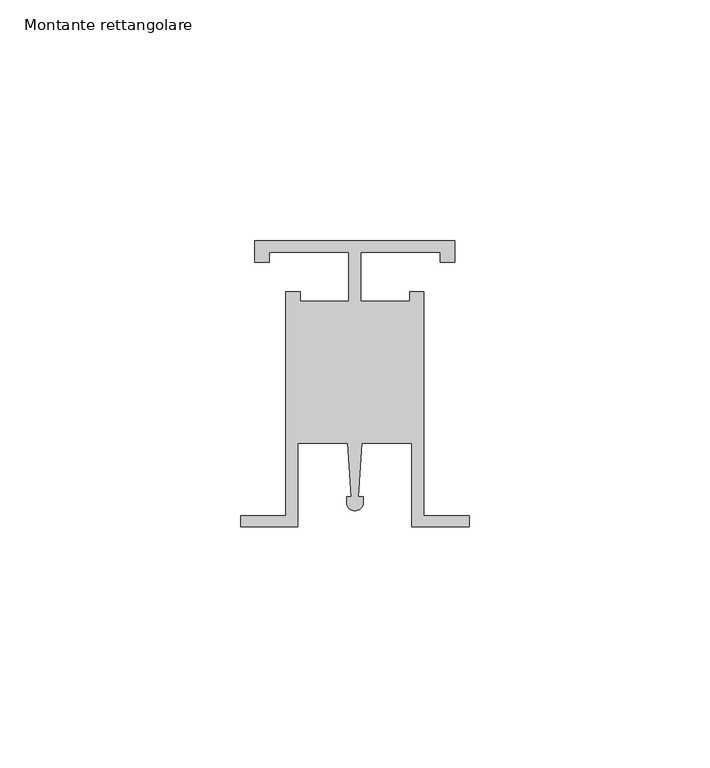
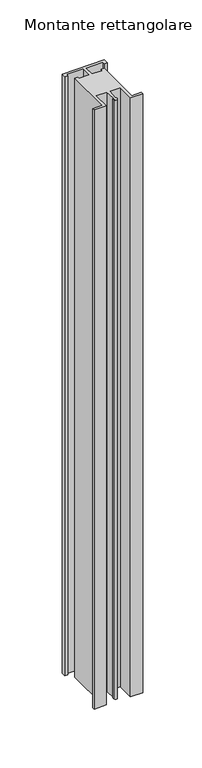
"""IFC4 building model written with IfcOpenShell, lengths in millimetres: member geometry, Montante rettangolare : Verde Profilo's Uprights."""

from ifc_helpers import new_model, si_unit, point, frame, frame_2d, origin, place, context, project, spatial, polyline, circle_curve, trimmed, segment, composite_curve, outline, extrude, source, transform, mapped, element, save


def montante_rettangolare_5246278a(model_context):
    return source(origin(), model_context, "Body", "SweptSolid", [
        extrude(outline(composite_curve([segment(polyline([(-44.5191881, 0.0), (-3.0, 0.0), (-3.0, -4.4643434), (-5.9763281, -4.4643434), (-5.9763281, -2.4801246), (-22.5192241, -2.4801246), (-22.5192241, -12.5992217), (-12.4008018, -12.5992217), (-12.4008018, -10.6150029), (-9.4244736, -10.6150029), (-9.4244736, -57.1992491), (0.0, -57.1992491), (0.0, -59.5229914), (-11.9045983, -59.5229914), (-11.9045983, -42.1200913), (-22.2878429, -42.1200913), (-23.0155567, -53.2310496), (-22.0219337, -53.2310496), (-22.0219337, -54.4070013)]), True, "CONTINUOUS"), segment(trimmed(circle_curve(frame_2d((-23.7595941, -54.4070013)), 1.7376604), [point((-22.0219337, -54.4070013))], [point((-25.4972545, -54.4070013))], False, "CARTESIAN"), True, "CONTINUOUS"), segment(polyline([(-25.4972545, -54.4070013), (-25.4972545, -53.2310496), (-24.5036314, -53.2310496), (-25.2313452, -42.1200913), (-35.6145898, -42.1200913), (-35.6145898, -59.5229914), (-47.5191881, -59.5229914), (-47.5191881, -57.1992491), (-38.0947145, -57.1992491), (-38.0947145, -10.6150029), (-35.1183863, -10.6150029), (-35.1183863, -12.5992217), (-24.999964, -12.5992217), (-24.999964, -2.4801246), (-41.54286, -2.4801246), (-41.54286, -4.4643434), (-44.5191881, -4.4643434), (-44.5191881, 0.0)]), True, "CONTINUOUS")], self_intersect=False)), frame((0.0, 0.0, -620.0), z_axis=(0.0, 0.0, 1.0), x_axis=(1.0, 0.0, 0.0)), (0.0, 0.0, 1.0), 620.0),
    ])


if __name__ == "__main__":
    model = new_model("IFC4")
    model_context = context("Model", 3, world=origin())
    ifc_project = project(units=[si_unit("LENGTHUNIT", "METRE", prefix="MILLI")], contexts=[model_context])
    site = spatial("IfcSite", under=ifc_project)
    building = spatial("IfcBuilding", under=site)
    placement = place(None, origin())
    montante_rettangolare_shape = montante_rettangolare_5246278a(model_context)
    element("IfcMember", 1, ObjectType="Montante rettangolare : Verde Profilo's Uprights", at=placement, inside=building, context=model_context, shape_type="MappedRepresentation", body=[
        mapped(montante_rettangolare_shape, transform((0.0, 0.0, 0.0), x_axis=(1.0, 0.0, 0.0), y_axis=(0.0, 1.0, 0.0), z_axis=(0.0, 0.0, 1.0))),
    ])
    save(model, "model.ifc")
